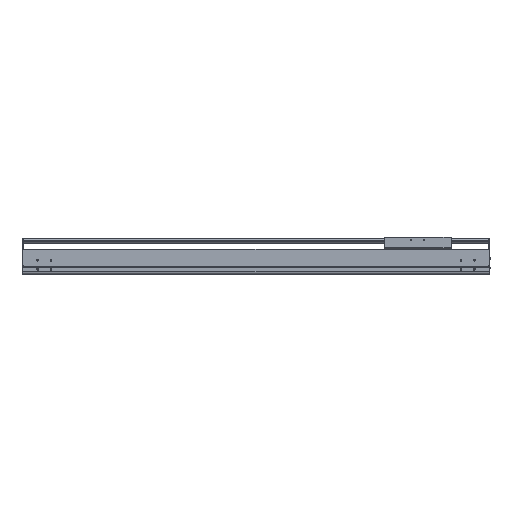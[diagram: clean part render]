
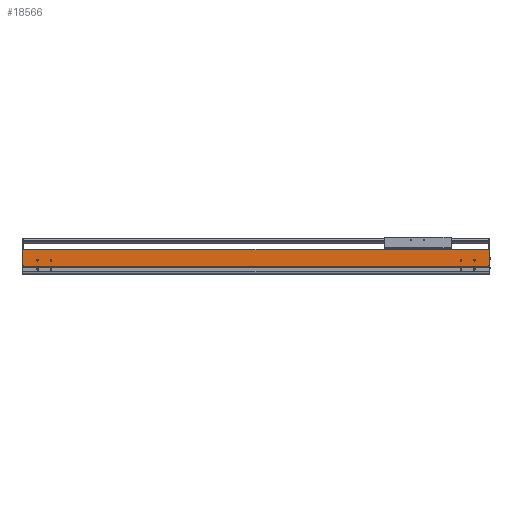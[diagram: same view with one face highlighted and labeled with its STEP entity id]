
A CAD part, top view. The second image highlights one B-rep face of the part: STEP entity #18566.
In plain terms, the highlighted planar face has unit normal (0, 0, 1).
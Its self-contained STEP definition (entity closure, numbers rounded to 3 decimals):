
#506=DIRECTION('',(0.,-1.,0.));
#507=VECTOR('',#506,2.55);
#508=CARTESIAN_POINT('',(0.,34.65,107.));
#509=LINE('',#508,#507);
#2129=DIRECTION('',(1.,0.,0.));
#2130=VECTOR('',#2129,2.);
#2131=CARTESIAN_POINT('',(0.,34.65,107.));
#2132=LINE('',#2131,#2130);
#2137=CARTESIAN_POINT('',(-54.5,54.,107.));
#2138=DIRECTION('',(0.,0.,-1.));
#2139=DIRECTION('',(1.,0.,0.));
#2140=AXIS2_PLACEMENT_3D('',#2137,#2138,#2139);
#2142=CARTESIAN_POINT('',(-54.5,54.,107.));
#2143=DIRECTION('',(0.,0.,-1.));
#2144=DIRECTION('',(-1.,0.,0.));
#2145=AXIS2_PLACEMENT_3D('',#2142,#2143,#2144);
#2147=CARTESIAN_POINT('',(-104.5,54.,107.));
#2148=DIRECTION('',(0.,0.,-1.));
#2149=DIRECTION('',(1.,0.,0.));
#2150=AXIS2_PLACEMENT_3D('',#2147,#2148,#2149);
#2152=CARTESIAN_POINT('',(-104.5,54.,107.));
#2153=DIRECTION('',(0.,0.,-1.));
#2154=DIRECTION('',(-1.,0.,0.));
#2155=AXIS2_PLACEMENT_3D('',#2152,#2153,#2154);
#2157=CARTESIAN_POINT('',(-1684.5,54.,107.));
#2158=DIRECTION('',(0.,0.,-1.));
#2159=DIRECTION('',(1.,0.,0.));
#2160=AXIS2_PLACEMENT_3D('',#2157,#2158,#2159);
#2162=CARTESIAN_POINT('',(-1684.5,54.,107.));
#2163=DIRECTION('',(0.,0.,-1.));
#2164=DIRECTION('',(-1.,0.,0.));
#2165=AXIS2_PLACEMENT_3D('',#2162,#2163,#2164);
#2167=CARTESIAN_POINT('',(-1634.5,54.,107.));
#2168=DIRECTION('',(0.,0.,-1.));
#2169=DIRECTION('',(1.,0.,0.));
#2170=AXIS2_PLACEMENT_3D('',#2167,#2168,#2169);
#2172=CARTESIAN_POINT('',(-1634.5,54.,107.));
#2173=DIRECTION('',(0.,0.,-1.));
#2174=DIRECTION('',(-1.,0.,0.));
#2175=AXIS2_PLACEMENT_3D('',#2172,#2173,#2174);
#2177=DIRECTION('',(0.,-1.,0.));
#2178=VECTOR('',#2177,2.55);
#2179=CARTESIAN_POINT('',(-1739.,34.65,107.));
#2180=LINE('',#2179,#2178);
#2181=DIRECTION('',(0.,-1.,0.));
#2182=VECTOR('',#2181,58.85);
#2183=CARTESIAN_POINT('',(-1741.,93.5,107.));
#2184=LINE('',#2183,#2182);
#2185=DIRECTION('',(0.,1.,0.));
#2186=VECTOR('',#2185,58.85);
#2187=CARTESIAN_POINT('',(2.,34.65,107.));
#2188=LINE('',#2187,#2186);
#2189=DIRECTION('',(1.,0.,0.));
#2190=VECTOR('',#2189,1739.);
#2191=CARTESIAN_POINT('',(-1739.,32.1,107.));
#2192=LINE('',#2191,#2190);
#2301=DIRECTION('',(1.,0.,0.));
#2302=VECTOR('',#2301,2.);
#2303=CARTESIAN_POINT('',(-1741.,34.65,107.));
#2304=LINE('',#2303,#2302);
#2313=DIRECTION('',(-1.,0.,0.));
#2314=VECTOR('',#2313,1743.);
#2315=CARTESIAN_POINT('',(2.,93.5,107.));
#2316=LINE('',#2315,#2314);
#12681=CARTESIAN_POINT('',(-1741.,34.65,107.));
#12682=VERTEX_POINT('',#12681);
#12683=CARTESIAN_POINT('',(-1741.,93.5,107.));
#12684=VERTEX_POINT('',#12683);
#12913=CARTESIAN_POINT('',(-1739.,32.1,107.));
#12914=VERTEX_POINT('',#12913);
#13495=CARTESIAN_POINT('',(0.,32.1,107.));
#13496=VERTEX_POINT('',#13495);
#13497=CARTESIAN_POINT('',(-52.,54.,107.));
#13498=CARTESIAN_POINT('',(-57.,54.,107.));
#13499=VERTEX_POINT('',#13497);
#13500=VERTEX_POINT('',#13498);
#13501=CARTESIAN_POINT('',(-102.,54.,107.));
#13502=CARTESIAN_POINT('',(-107.,54.,107.));
#13503=VERTEX_POINT('',#13501);
#13504=VERTEX_POINT('',#13502);
#13505=CARTESIAN_POINT('',(-1682.,54.,107.));
#13506=CARTESIAN_POINT('',(-1687.,54.,107.));
#13507=VERTEX_POINT('',#13505);
#13508=VERTEX_POINT('',#13506);
#13509=CARTESIAN_POINT('',(-1632.,54.,107.));
#13510=CARTESIAN_POINT('',(-1637.,54.,107.));
#13511=VERTEX_POINT('',#13509);
#13512=VERTEX_POINT('',#13510);
#14713=CARTESIAN_POINT('',(2.,34.65,107.));
#14714=VERTEX_POINT('',#14713);
#14715=CARTESIAN_POINT('',(2.,93.5,107.));
#14716=VERTEX_POINT('',#14715);
#15059=CARTESIAN_POINT('',(0.,34.65,107.));
#15060=VERTEX_POINT('',#15059);
#15247=CARTESIAN_POINT('',(-1739.,34.65,107.));
#15248=VERTEX_POINT('',#15247);
#18524=CARTESIAN_POINT('',(-869.5,62.8,107.));
#18525=DIRECTION('',(0.,0.,1.));
#18526=DIRECTION('',(0.,-1.,0.));
#18527=AXIS2_PLACEMENT_3D('',#18524,#18525,#18526);
#18528=PLANE('',#18527);
#18529=ORIENTED_EDGE('',*,*,#15993,.F.);
#18531=ORIENTED_EDGE('',*,*,#18530,.F.);
#18532=ORIENTED_EDGE('',*,*,#17092,.F.);
#18534=ORIENTED_EDGE('',*,*,#18533,.F.);
#18535=ORIENTED_EDGE('',*,*,#18322,.F.);
#18536=ORIENTED_EDGE('',*,*,#18517,.F.);
#18537=ORIENTED_EDGE('',*,*,#16609,.T.);
#18539=ORIENTED_EDGE('',*,*,#18538,.F.);
#18540=EDGE_LOOP('',(#18529,#18531,#18532,#18534,#18535,#18536,#18537,#18539));
#18541=FACE_OUTER_BOUND('',#18540,.F.);
#18543=ORIENTED_EDGE('',*,*,#18542,.F.);
#18545=ORIENTED_EDGE('',*,*,#18544,.F.);
#18546=EDGE_LOOP('',(#18543,#18545));
#18547=FACE_BOUND('',#18546,.F.);
#18549=ORIENTED_EDGE('',*,*,#18548,.F.);
#18551=ORIENTED_EDGE('',*,*,#18550,.F.);
#18552=EDGE_LOOP('',(#18549,#18551));
#18553=FACE_BOUND('',#18552,.F.);
#18555=ORIENTED_EDGE('',*,*,#18554,.F.);
#18557=ORIENTED_EDGE('',*,*,#18556,.F.);
#18558=EDGE_LOOP('',(#18555,#18557));
#18559=FACE_BOUND('',#18558,.F.);
#18561=ORIENTED_EDGE('',*,*,#18560,.F.);
#18563=ORIENTED_EDGE('',*,*,#18562,.F.);
#18564=EDGE_LOOP('',(#18561,#18563));
#18565=FACE_BOUND('',#18564,.F.);
#18566=ADVANCED_FACE('',(#18541,#18547,#18553,#18559,#18565),#18528,.T.);
#2141=CIRCLE('',#2140,2.5);
#2146=CIRCLE('',#2145,2.5);
#2151=CIRCLE('',#2150,2.5);
#2156=CIRCLE('',#2155,2.5);
#2161=CIRCLE('',#2160,2.5);
#2166=CIRCLE('',#2165,2.5);
#2171=CIRCLE('',#2170,2.5);
#2176=CIRCLE('',#2175,2.5);
#15993=EDGE_CURVE('',#15248,#12914,#2180,.T.);
#16609=EDGE_CURVE('',#15060,#13496,#509,.T.);
#17092=EDGE_CURVE('',#12684,#12682,#2184,.T.);
#18322=EDGE_CURVE('',#14714,#14716,#2188,.T.);
#18517=EDGE_CURVE('',#15060,#14714,#2132,.T.);
#18530=EDGE_CURVE('',#12682,#15248,#2304,.T.);
#18533=EDGE_CURVE('',#14716,#12684,#2316,.T.);
#18538=EDGE_CURVE('',#12914,#13496,#2192,.T.);
#18542=EDGE_CURVE('',#13503,#13504,#2151,.T.);
#18544=EDGE_CURVE('',#13504,#13503,#2156,.T.);
#18548=EDGE_CURVE('',#13507,#13508,#2161,.T.);
#18550=EDGE_CURVE('',#13508,#13507,#2166,.T.);
#18554=EDGE_CURVE('',#13511,#13512,#2171,.T.);
#18556=EDGE_CURVE('',#13512,#13511,#2176,.T.);
#18560=EDGE_CURVE('',#13499,#13500,#2141,.T.);
#18562=EDGE_CURVE('',#13500,#13499,#2146,.T.);
